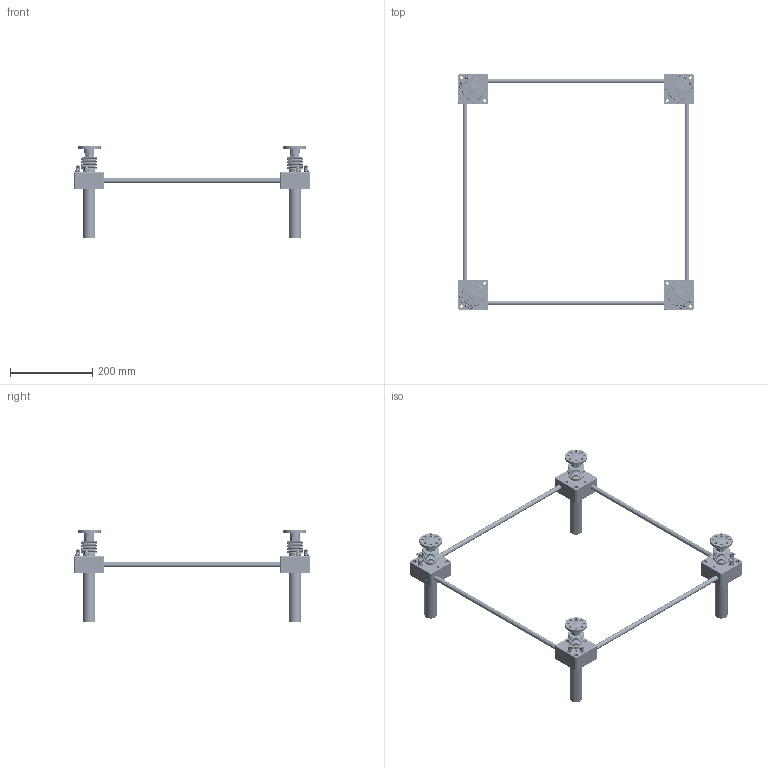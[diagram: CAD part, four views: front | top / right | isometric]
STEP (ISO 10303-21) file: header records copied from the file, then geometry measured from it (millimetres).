
FILE_DESCRIPTION(('STEP AP203'),'1');
FILE_NAME('SP300FCJ-500x500-100ST_CAP.stp','2016-08-08T01:45:15',(' '),(' '),'Spatial InterOp 3D',' ',' ');
FILE_SCHEMA(('CONFIG_CONTROL_DESIGN'));
Length unit declared in the file: millimetre
Products named in the file (92): SP300FCJ-500x500-100ST_CAP; Rack Gear(SP-300FC); Belloew(SP-300); Flange.1-Part; Flange.1; Joint.1; Nut.1; Flange.2-Part; Flange.2; Joint.2; Nut.2; Flange.3-Part; Flange.3; Joint.3; Nut.3; Flange.4-Part; Flange.4; Joint.4; Nut.4; Body.1-Part; Nipple; Bolt; Gear Box.1(Upper); Gear Box.1(Lower); RJ05-4SCJ-610X600-100ST_CAP; LABEL-B.1; ___; __; 파트18; Body.2-Part; Gear Box.2(Upper); Gear Box.2(Lower); Body.3-Part; Gear Box.3(Upper); Gear Box.3(Lower); Body.4-Part; Gear Box.4(Upper); Gear Box.4(Lower); Cap.1-Part; Cap.1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
Assembly tree (96 placements, depth 6):
  SP300FCJ-500x500-100ST_CAP
    Rack Gear(SP-300FC)  x4
    Belloew(SP-300)
    Belloew(SP-300)
    Belloew(SP-300)
    Belloew(SP-300)
    Flange.1-Part
      Flange.1
      Joint.1
      Nut.1
    Flange.2-Part
      Flange.2
      Joint.2
      Nut.2
    Flange.3-Part
      Flange.3
      Joint.3
      Nut.3
    Flange.4-Part
      Flange.4
      Joint.4
      Nut.4
    Body.1-Part
      Nipple
      Nipple
      Bolt
      Bolt
      Bolt
      Gear Box.1(Upper)
      Gear Box.1(Lower)
      __
        ___
          RJ05-4SCJ-610X600-100ST_CAP
            LABEL-B.1
        파트18
    Body.2-Part
      Nipple
      Nipple
      Bolt
      Bolt
      Bolt
      Gear Box.2(Upper)
      Gear Box.2(Lower)
      __
        ___
          RJ05-4SCJ-610X600-100ST_CAP
            LABEL-B.1
        파트18
    Body.3-Part
      Nipple
      Nipple
      Bolt
      Bolt
      Bolt
      Gear Box.3(Upper)
      Gear Box.3(Lower)
      __
        ___
          RJ05-4SCJ-610X600-100ST_CAP
            LABEL-B.1
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Bounding box: 574.24 x 574.24 x 225 mm (x, y, z)
Volume: 1139700.6 mm3; surface area: 636525.7 mm2
Topology: 120 solids, 120 shells, 11012 faces, 30596 edges, 20172 vertices
Faces by surface type: plane 9596, cylinder 628, cone 320, revolution 168, extrusion 152, torus 112, sphere 36
Full cylindrical faces by diameter (mm): 1.525 x8, 4.8 x8, 6 x40, 7 x44, 9 x8, 9.886 x8, 11 x32, 12 x12, 13.8 x4, 15 x8, 17 x4, 18 x4, 18.856 x36, 19 x8, 20 x8, 20.3 x8, 21.3 x8, 23 x4, 24 x8, 24.3 x4, 25 x4, 26 x12, 26.2 x4, 27 x8, 27.2 x4, 28 x16, 28.3 x4, 30 x8, 55 x4
Entity records: 324118 total; most frequent: CARTESIAN_POINT 62930, ORIENTED_EDGE 55128, DIRECTION 48484, EDGE_CURVE 27564, VECTOR 25104, LINE 24952, VERTEX_POINT 18520, AXIS2_PLACEMENT_3D 11606
